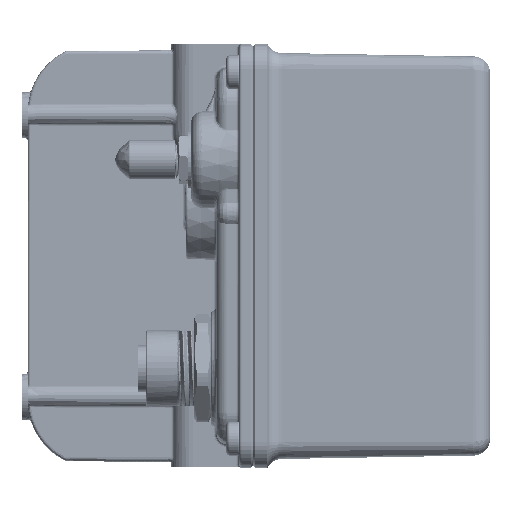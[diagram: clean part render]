
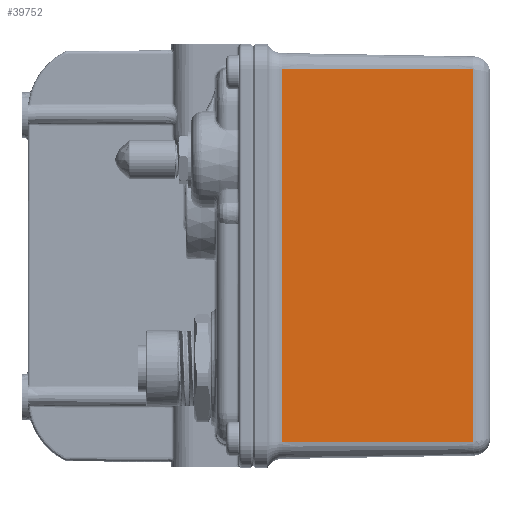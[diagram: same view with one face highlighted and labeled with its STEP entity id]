
A CAD part, top view. The second image highlights one B-rep face of the part: STEP entity #39752.
In plain terms, the highlighted planar face has unit normal (0.018, 0, 1).
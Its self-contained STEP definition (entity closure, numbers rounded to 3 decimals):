
#4624=FACE_OUTER_BOUND('',#7054,.T.);
#7054=EDGE_LOOP('',(#27149,#27150,#27151,#27152));
#9050=LINE('',#56715,#10644);
#9631=LINE('',#59632,#11225);
#9639=LINE('',#59678,#11233);
#9640=LINE('',#59687,#11234);
#10644=VECTOR('',#46125,10.);
#11225=VECTOR('',#49164,3.);
#11233=VECTOR('',#49216,10.);
#11234=VECTOR('',#49219,10.);
#14693=VERTEX_POINT('',#56664);
#14694=VERTEX_POINT('',#56714);
#15606=VERTEX_POINT('',#59626);
#15608=VERTEX_POINT('',#59630);
#18373=EDGE_CURVE('',#14693,#14694,#9050,.T.);
#19743=EDGE_CURVE('',#15608,#15606,#9631,.T.);
#19764=EDGE_CURVE('',#15606,#14693,#9639,.T.);
#19766=EDGE_CURVE('',#15608,#14694,#9640,.T.);
#27149=ORIENTED_EDGE('',*,*,#19743,.F.);
#27150=ORIENTED_EDGE('',*,*,#19766,.T.);
#27151=ORIENTED_EDGE('',*,*,#18373,.F.);
#27152=ORIENTED_EDGE('',*,*,#19764,.F.);
#36557=PLANE('',#42983);
#39752=ADVANCED_FACE('',(#4624),#36557,.T.);
#42983=AXIS2_PLACEMENT_3D('',#59686,#49217,#49218);
#46125=DIRECTION('',(0.,-1.,0.));
#49164=DIRECTION('',(0.,1.,0.));
#49216=DIRECTION('',(1.,0.,-0.017));
#49217=DIRECTION('center_axis',(0.017,0.,1.));
#49218=DIRECTION('ref_axis',(0.,-1.,0.));
#49219=DIRECTION('',(1.,0.,-0.017));
#56664=CARTESIAN_POINT('',(16.552,33.,42.818));
#56714=CARTESIAN_POINT('',(16.552,-33.,42.818));
#56715=CARTESIAN_POINT('',(16.552,-16.5,42.818));
#59626=CARTESIAN_POINT('',(-17.405,33.,43.411));
#59630=CARTESIAN_POINT('',(-17.405,-33.,43.411));
#59632=CARTESIAN_POINT('',(-17.405,33.,43.411));
#59678=CARTESIAN_POINT('',(-22.5,33.,43.5));
#59686=CARTESIAN_POINT('Origin',(-22.5,-33.,43.5));
#59687=CARTESIAN_POINT('',(-22.5,-33.,43.5));
